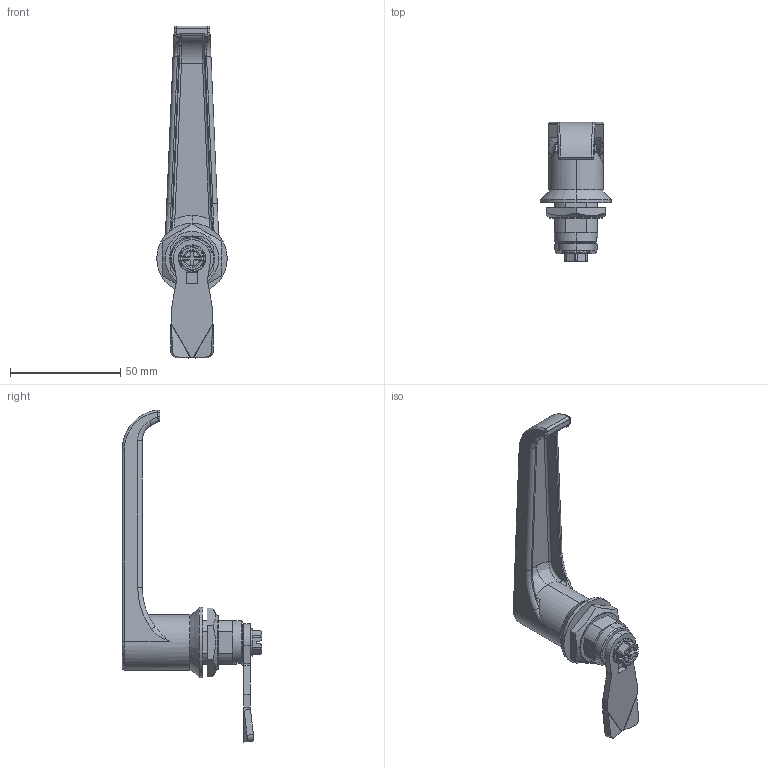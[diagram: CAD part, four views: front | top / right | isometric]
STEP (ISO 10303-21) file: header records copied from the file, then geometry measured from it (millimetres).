
FILE_DESCRIPTION (( 'STEP AP214' ), '1' );
FILE_NAME ('2.L18.005-006.STEP', '2016-09-08T10:44:03', ( '' ), ( '' ), 'SwSTEP 2.0', 'SolidWorks 2015', '' );
FILE_SCHEMA (( 'AUTOMOTIVE_DESIGN' ));
Length unit declared in the file: millimetre
Products named in the file (8): 2.NKR_M22 - A1; 1C.J-1XX.GH.L_#3, 1.65.18.45; 2.L18.005-006; 2.L18.001.02_A; DIN 3771_12x3; 2.K.PM18.001_B; DIN 6921_M6x8; 2.L18.010_A
Assembly tree (7 placements, depth 2):
  2.L18.005-006
    2.L18.001.02_A
    DIN 3771_12x3
    2.K.PM18.001_B
    2.NKR_M22 - A1
    1C.J-1XX.GH.L_#3, 1.65.18.45
    DIN 6921_M6x8
    2.L18.010_A
Bounding box: 32 x 63.25 x 150.65 mm (x, y, z)
Volume: 34034 mm3; surface area: 22238.3 mm2
Topology: 7 solids, 7 shells, 330 faces, 847 edges, 536 vertices
Faces by surface type: plane 164, cylinder 94, cone 32, bspline 31, torus 9
Entity records: 12995 total; most frequent: CARTESIAN_POINT 4109, ORIENTED_EDGE 1690, DIRECTION 1429, EDGE_CURVE 845, VERTEX_POINT 536, AXIS2_PLACEMENT_3D 523, VECTOR 383, LINE 383
